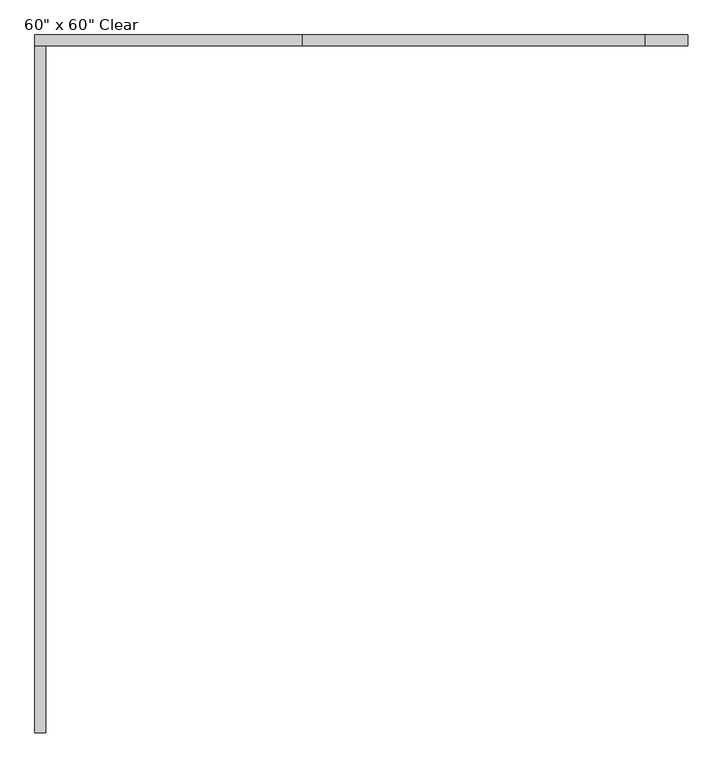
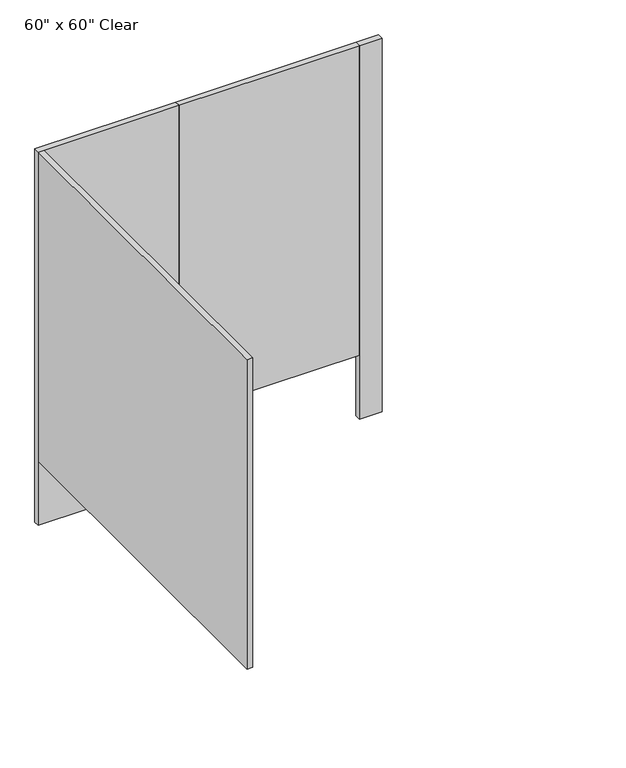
"""IFC4 building model written with IfcOpenShell, lengths in millimetres: proxy geometry."""

from ifc_helpers import new_model, si_unit, frame, origin, origin_with_axes, place, context, project, spatial, polyline, outline, extrude, source, transform, mapped, element, save


def proxy_14d97774(model_context):
    return source(origin(), model_context, "Body", "SweptSolid", [
        extrude(outline(polyline([(1370.1031538, 1720.85), (1370.1031538, 1695.45), (557.3031538, 1695.45), (557.3031538, 1720.85), (1370.1031538, 1720.85)])), frame((0.0, 0.0, 304.8), z_axis=(0.0, 0.0, 1.0), x_axis=(1.0, 0.0, 0.0)), (0.0, 0.0, 1.0), 1473.2),
        extrude(outline(polyline([(557.3031538, 1720.85), (557.3031538, 1695.45), (-77.6968462, 1695.45), (-77.6968462, 1720.85), (557.3031538, 1720.85)])), origin_with_axes(), (0.0, 0.0, 1.0), 1778.0),
        extrude(outline(polyline([(1471.7031538, 1720.85), (1471.7031538, 1695.45), (1370.1031538, 1695.45), (1370.1031538, 1720.85), (1471.7031538, 1720.85)])), origin_with_axes(), (0.0, 0.0, 1.0), 1778.0),
        extrude(outline(polyline([(-77.6968462, 1695.45), (-52.2968462, 1695.45), (-52.2968462, 65.0875), (-77.6968462, 65.0875), (-77.6968462, 1695.45)])), frame((0.0, 0.0, 304.8), z_axis=(0.0, 0.0, 1.0), x_axis=(1.0, 0.0, 0.0)), (0.0, 0.0, 1.0), 1473.2),
    ])


if __name__ == "__main__":
    model = new_model("IFC4")
    model_context = context("Model", 3, world=origin())
    ifc_project = project(units=[si_unit("LENGTHUNIT", "METRE", prefix="MILLI")], contexts=[model_context])
    site = spatial("IfcSite", under=ifc_project)
    building = spatial("IfcBuilding", under=site)
    placement = place(None, origin())
    proxy_shape = proxy_14d97774(model_context)
    element("IfcBuildingElementProxy", 1, Name="Toilet Stall-Accessible-Front-3D w Toilet : 60\" x 60\" Clear", ObjectType="Toilet Stall-Accessible-Front-3D w Toilet : 60\" x 60\" Clear", at=placement, inside=building, context=model_context, shape_type="MappedRepresentation", body=[
        mapped(proxy_shape, transform((0.0, 0.0, 0.0), x_axis=(1.0, 0.0, 0.0), y_axis=(0.0, 1.0, 0.0), z_axis=(0.0, 0.0, 1.0))),
    ])
    save(model, "model.ifc")
